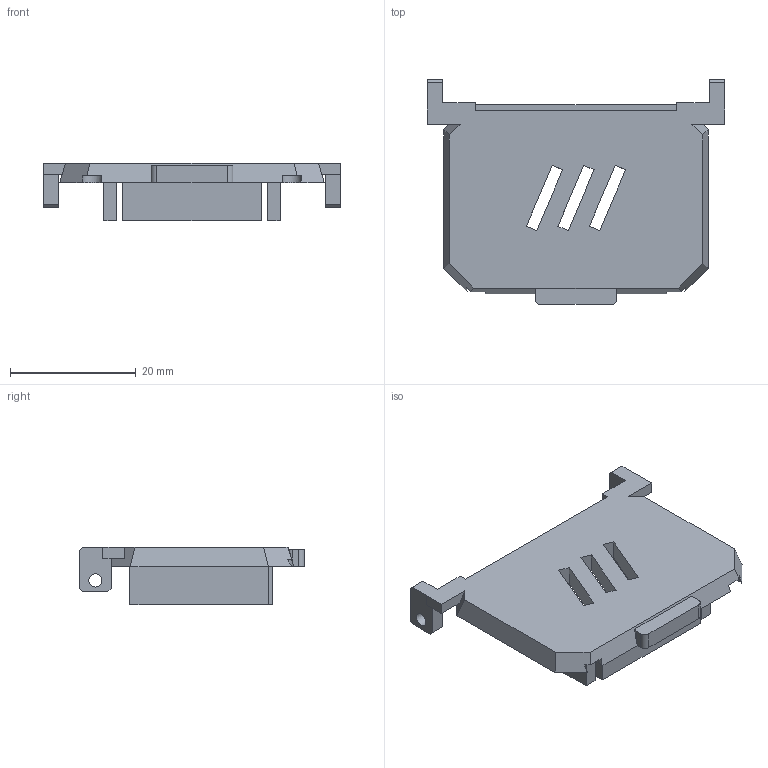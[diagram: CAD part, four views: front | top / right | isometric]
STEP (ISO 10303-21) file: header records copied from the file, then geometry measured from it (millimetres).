
FILE_DESCRIPTION(('Open CASCADE Model'),'2;1');
FILE_NAME('Open CASCADE Shape Model','2026-09-30T20:51:50',('Author'),( 'Open CASCADE'),'Open CASCADE STEP processor 7.9','Open CASCADE 7.9' ,'Unknown');
FILE_SCHEMA(('AUTOMOTIVE_DESIGN { 1 0 10303 214 1 1 1 1 }'));
Length unit declared in the file: millimetre
Products named in the file (1): Open CASCADE STEP translator 7.9 6
Bounding box: 47.2 x 35.7 x 9.2 mm (x, y, z)
Volume: 4492.5 mm3; surface area: 4175.5 mm2
Topology: 1 solids, 1 shells, 79 faces, 222 edges, 148 vertices
Faces by surface type: plane 63, bspline 8, cylinder 8
Full cylindrical faces by diameter (mm): 2.1 x2
Entity records: 5853 total; most frequent: CARTESIAN_POINT 1665, DIRECTION 668, LINE 490, VECTOR 490, ORIENTED_EDGE 444, PCURVE 444, DEFINITIONAL_REPRESENTATION 444, EDGE_CURVE 222
